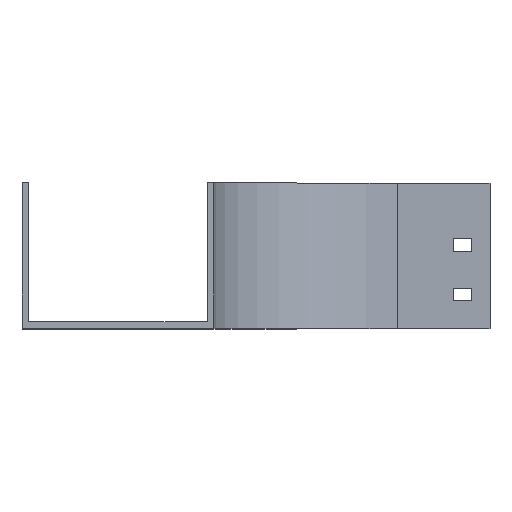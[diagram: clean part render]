
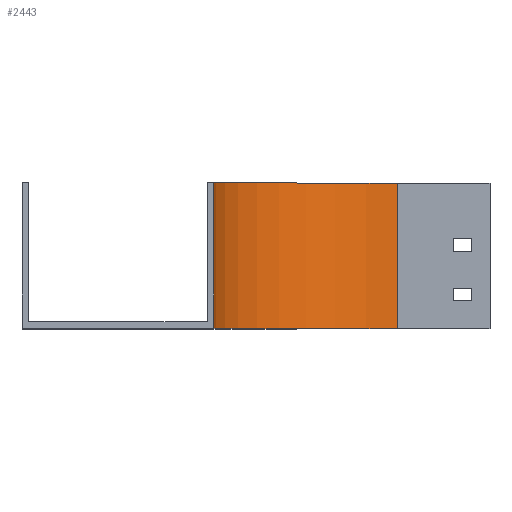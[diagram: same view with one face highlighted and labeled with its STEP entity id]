
A CAD part, top view. The second image highlights one B-rep face of the part: STEP entity #2443.
In plain terms, the highlighted cylindrical face has radius 100 mm (diameter 200 mm), a partial arc.
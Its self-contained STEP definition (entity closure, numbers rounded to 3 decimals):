
#61 = DIRECTION ( 'NONE',  ( 0., 0., -1. ) ) ;
#155 = AXIS2_PLACEMENT_3D ( 'NONE', #2705, #2069, #61 ) ;
#225 = VERTEX_POINT ( 'NONE', #2167 ) ;
#256 = ORIENTED_EDGE ( 'NONE', *, *, #2693, .F. ) ;
#292 = AXIS2_PLACEMENT_3D ( 'NONE', #413, #382, #1428 ) ;
#322 = ORIENTED_EDGE ( 'NONE', *, *, #572, .T. ) ;
#348 = LINE ( 'NONE', #2070, #771 ) ;
#378 = AXIS2_PLACEMENT_3D ( 'NONE', #914, #889, #2606 ) ;
#382 = DIRECTION ( 'NONE',  ( 0., -1., 0. ) ) ;
#413 = CARTESIAN_POINT ( 'NONE',  ( 0., 79., 0. ) ) ;
#516 = CARTESIAN_POINT ( 'NONE',  ( 0., 0., -100. ) ) ;
#572 = EDGE_CURVE ( 'NONE', #225, #1585, #348, .T. ) ;
#665 = CARTESIAN_POINT ( 'NONE',  ( -100., 0., 0. ) ) ;
#771 = VECTOR ( 'NONE', #2498, 1000. ) ;
#782 = CIRCLE ( 'NONE', #155, 100. ) ;
#825 = CYLINDRICAL_SURFACE ( 'NONE', #292, 100. ) ;
#889 = DIRECTION ( 'NONE',  ( 0., -1., 0. ) ) ;
#914 = CARTESIAN_POINT ( 'NONE',  ( 0., 0., 0. ) ) ;
#1014 = VERTEX_POINT ( 'NONE', #1293 ) ;
#1148 = EDGE_LOOP ( 'NONE', ( #1572, #256, #1815, #322 ) ) ;
#1244 = EDGE_CURVE ( 'NONE', #225, #1014, #782, .T. ) ;
#1293 = CARTESIAN_POINT ( 'NONE',  ( 0., 79., -100. ) ) ;
#1428 = DIRECTION ( 'NONE',  ( 0., 0., -1. ) ) ;
#1572 = ORIENTED_EDGE ( 'NONE', *, *, #2634, .T. ) ;
#1585 = VERTEX_POINT ( 'NONE', #665 ) ;
#1803 = LINE ( 'NONE', #2012, #1926 ) ;
#1815 = ORIENTED_EDGE ( 'NONE', *, *, #1244, .F. ) ;
#1817 = DIRECTION ( 'NONE',  ( 0., -1., 0. ) ) ;
#1926 = VECTOR ( 'NONE', #1817, 1000. ) ;
#2012 = CARTESIAN_POINT ( 'NONE',  ( 0., 79., -100. ) ) ;
#2025 = VERTEX_POINT ( 'NONE', #516 ) ;
#2069 = DIRECTION ( 'NONE',  ( 0., -1., 0. ) ) ;
#2070 = CARTESIAN_POINT ( 'NONE',  ( -100., 79., 0. ) ) ;
#2122 = FACE_OUTER_BOUND ( 'NONE', #1148, .T. ) ;
#2167 = CARTESIAN_POINT ( 'NONE',  ( -100., 79., 0. ) ) ;
#2428 = CIRCLE ( 'NONE', #378, 100. ) ;
#2443 = ADVANCED_FACE ( 'NONE', ( #2122 ), #825, .F. ) ;
#2498 = DIRECTION ( 'NONE',  ( 0., -1., 0. ) ) ;
#2606 = DIRECTION ( 'NONE',  ( 0., 0., -1. ) ) ;
#2634 = EDGE_CURVE ( 'NONE', #1585, #2025, #2428, .T. ) ;
#2693 = EDGE_CURVE ( 'NONE', #1014, #2025, #1803, .T. ) ;
#2705 = CARTESIAN_POINT ( 'NONE',  ( 0., 79., 0. ) ) ;
